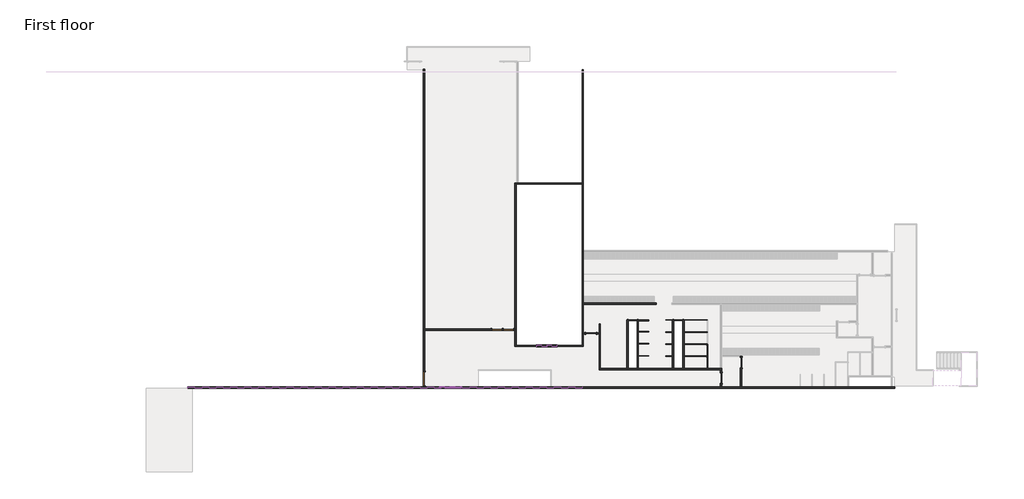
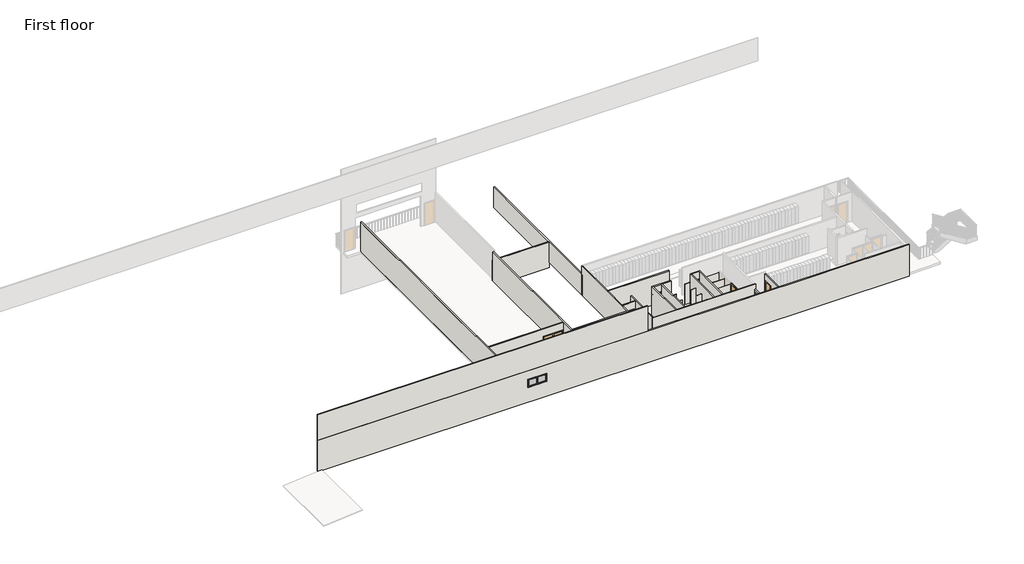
# One storey, part 1 of 5: 33 walls, 14 members, 10 doors, 4 plates.
"""IFC4 building model written with IfcOpenShell, lengths in millimetres."""

from ifc_helpers import new_model, si_unit, frame, origin, place, context, project, spatial, polyline, outline, extrude, faceted_brep, transform, mapped, element, save
from components import m_single_flush_0813_x_2030mm_0e9c7165, m_single_flush_0813_x_2030mm_77d0a044, m_single_flush_1050_x_2134mm_0959f944, m_single_flush_700_x_2030mm_c6211df7, m_single_flush_0813_x_2030mm_4a34e6f7, rectangular_mullion_50_x_150mm_3ddb3363, rectangular_mullion_50_x_150mm_35d6a770, rectangular_mullion_50_x_150mm_5dc04e1f, rectangular_mullion_50_x_150mm_9cd8519f, rectangular_mullion_50_x_150mm_52ae1937, rectangular_mullion_50_x_150mm_08f0ee12, system_panel_glazed_95cdb087, system_panel_glazed_d0354de1

model = new_model("IFC4")

# Units and contexts
model_context = context("Model", 3, world=origin())
ifc_project = project(units=[si_unit("LENGTHUNIT", "METRE", prefix="MILLI")], contexts=[model_context])

# Site, building, storey
site = spatial("IfcSite", under=ifc_project)
building = spatial("IfcBuilding", under=site)
storey = spatial("IfcBuildingStorey", under=building, Name="First floor", Elevation=48170.0)

# Doors
placement = place(None, origin())
m_single_flush_0813_x_2030mm_shape = m_single_flush_0813_x_2030mm_0e9c7165(model_context)
element("IfcDoor", 1, ObjectType="M_Single-Flush : 0813 x 2030mm", at=placement, inside=storey, context=model_context, shape_type="MappedRepresentation", body=[
    mapped(m_single_flush_0813_x_2030mm_shape, transform((-92724.9288687, 13862.7762493, 48170.0), x_axis=(0.0, 1.0, 0.0), y_axis=(-1.0, 0.0, 0.0), z_axis=(0.0, 0.0, 1.0))),
])
m_single_flush_0813_x_2030mm_2_shape = m_single_flush_0813_x_2030mm_77d0a044(model_context)
element("IfcDoor", 2, ObjectType="M_Single-Flush : 0813 x 2030mm", at=placement, inside=storey, context=model_context, shape_type="MappedRepresentation", body=[
    mapped(m_single_flush_0813_x_2030mm_2_shape, transform((-95325.6956785, 13888.2696043, 48170.0), x_axis=(0.0, 1.0, 0.0), y_axis=(-1.0, 0.0, 0.0), z_axis=(0.0, 0.0, 1.0))),
])
element("IfcDoor", 3, ObjectType="M_Single-Flush : 0813 x 2030mm", at=placement, inside=storey, context=model_context, shape_type="MappedRepresentation", body=[
    mapped(m_single_flush_0813_x_2030mm_2_shape, transform((-95325.6956785, 14805.7713059, 48170.0), x_axis=(0.0, 1.0, 0.0), y_axis=(-1.0, 0.0, 0.0), z_axis=(0.0, 0.0, 1.0))),
])
m_single_flush_1050_x_2134mm_shape = m_single_flush_1050_x_2134mm_0959f944(model_context)
element("IfcDoor", 4, ObjectType="M_Single-Flush : 1050 x 2134mm", at=placement, inside=storey, context=model_context, shape_type="MappedRepresentation", body=[
    mapped(m_single_flush_1050_x_2134mm_shape, transform((-117091.9650837, 12633.2777512, 48170.0), x_axis=(0.0, -1.0, 0.0), y_axis=(1.0, 0.0, 0.0), z_axis=(0.0, 0.0, 1.0))),
])
m_single_flush_700_x_2030mm_shape = m_single_flush_700_x_2030mm_c6211df7(model_context)
element("IfcDoor", 5, ObjectType="M_Single-Flush : 700 x 2030mm", at=placement, inside=storey, context=model_context, shape_type="MappedRepresentation", body=[
    mapped(m_single_flush_700_x_2030mm_shape, transform((-101065.3635872, 17119.2679026, 48170.0), x_axis=(1.0, 0.0, 0.0), y_axis=(0.0, 1.0, 0.0), z_axis=(0.0, 0.0, 1.0))),
])
element("IfcDoor", 6, ObjectType="M_Single-Flush : 700 x 2030mm", at=placement, inside=storey, context=model_context, shape_type="MappedRepresentation", body=[
    mapped(m_single_flush_700_x_2030mm_shape, transform((-97567.3900708, 17119.2679026, 48170.0), x_axis=(1.0, 0.0, 0.0), y_axis=(0.0, 1.0, 0.0), z_axis=(0.0, 0.0, 1.0))),
])
m_single_flush_0813_x_2030mm_3_shape = m_single_flush_0813_x_2030mm_4a34e6f7(model_context)
element("IfcDoor", 7, ObjectType="M_Single-Flush : 813 x 2030mm", at=placement, inside=storey, context=model_context, shape_type="MappedRepresentation", body=[
    mapped(m_single_flush_0813_x_2030mm_3_shape, transform((-94264.6956534, 12694.2728269, 48170.0), x_axis=(0.0, -1.0, 0.0), y_axis=(1.0, 0.0, 0.0), z_axis=(0.0, 0.0, 1.0))),
])
element("IfcDoor", 8, ObjectType="M_Single-Flush : 813 x 2030mm", at=placement, inside=storey, context=model_context, shape_type="MappedRepresentation", body=[
    mapped(m_single_flush_0813_x_2030mm_3_shape, transform((-111505.6100916, 16419.2777512, 48170.0), x_axis=(-1.0, 0.0, 0.0), y_axis=(0.0, -1.0, 0.0), z_axis=(0.0, 0.0, 1.0))),
])
element("IfcDoor", 9, ObjectType="M_Single-Flush : 813 x 2030mm", at=placement, inside=storey, context=model_context, shape_type="MappedRepresentation", body=[
    mapped(m_single_flush_0813_x_2030mm_shape, transform((-104277.796161, 16119.3131658, 48170.0), x_axis=(-1.0, 0.0, 0.0), y_axis=(0.0, -1.0, 0.0), z_axis=(0.0, 0.0, 1.0))),
])
element("IfcDoor", 10, ObjectType="M_Single-Flush : 813 x 2030mm", at=placement, inside=storey, context=model_context, shape_type="MappedRepresentation", body=[
    mapped(m_single_flush_0813_x_2030mm_shape, transform((-110605.6100916, 16419.2777512, 48170.0), x_axis=(1.0, 0.0, 0.0), y_axis=(0.0, 1.0, 0.0), z_axis=(0.0, 0.0, 1.0))),
])

# Members
rectangular_mullion_50_x_150mm_shape = rectangular_mullion_50_x_150mm_3ddb3363(model_context)
element("IfcMember", 11, ObjectType="Rectangular Mullion : 50 x 150mm", at=placement, inside=storey, context=model_context, shape_type="MappedRepresentation", body=[
    mapped(rectangular_mullion_50_x_150mm_shape, transform((-107657.9372768, 15157.4703267, 49270.0), x_axis=(1.0, 0.0, 0.0), y_axis=(0.0, -1.0, 0.0), z_axis=(0.0, 0.0, -1.0))),
])
rectangular_mullion_50_x_150mm_2_shape = rectangular_mullion_50_x_150mm_35d6a770(model_context)
element("IfcMember", 12, ObjectType="Rectangular Mullion : 50 x 150mm", at=placement, inside=storey, context=model_context, shape_type="MappedRepresentation", body=[
    mapped(rectangular_mullion_50_x_150mm_2_shape, transform((-106847.9372768, 15157.4703267, 49270.0), x_axis=(1.0, 0.0, 0.0), y_axis=(0.0, -1.0, 0.0), z_axis=(0.0, 0.0, -1.0))),
])
element("IfcMember", 13, ObjectType="Rectangular Mullion : 50 x 150mm", at=placement, inside=storey, context=model_context, shape_type="MappedRepresentation", body=[
    mapped(rectangular_mullion_50_x_150mm_2_shape, transform((-108467.9372768, 15157.4703267, 50170.0), x_axis=(-1.0, 0.0, 0.0), y_axis=(0.0, -1.0, 0.0), z_axis=(0.0, 0.0, 1.0))),
])
rectangular_mullion_50_x_150mm_3_shape = rectangular_mullion_50_x_150mm_5dc04e1f(model_context)
element("IfcMember", 14, ObjectType="Rectangular Mullion : 50 x 150mm", at=placement, inside=storey, context=model_context, shape_type="MappedRepresentation", body=[
    mapped(rectangular_mullion_50_x_150mm_3_shape, transform((-114297.9372768, 11958.2777512, 50170.0), x_axis=(0.0, 0.0, 1.0), y_axis=(0.0, -1.0, 0.0), z_axis=(1.0, 0.0, 0.0))),
])
element("IfcMember", 15, ObjectType="Rectangular Mullion : 50 x 150mm", at=placement, inside=storey, context=model_context, shape_type="MappedRepresentation", body=[
    mapped(rectangular_mullion_50_x_150mm_3_shape, transform((-115122.9372768, 11958.2777512, 50170.0), x_axis=(0.0, 0.0, 1.0), y_axis=(0.0, -1.0, 0.0), z_axis=(1.0, 0.0, 0.0))),
])
element("IfcMember", 16, ObjectType="Rectangular Mullion : 50 x 150mm", at=placement, inside=storey, context=model_context, shape_type="MappedRepresentation", body=[
    mapped(rectangular_mullion_50_x_150mm_3_shape, transform((-115897.9372768, 11958.2777512, 49399.5108726), x_axis=(0.0, 0.0, -1.0), y_axis=(0.0, -1.0, 0.0), z_axis=(-1.0, 0.0, 0.0))),
])
element("IfcMember", 17, ObjectType="Rectangular Mullion : 50 x 150mm", at=placement, inside=storey, context=model_context, shape_type="MappedRepresentation", body=[
    mapped(rectangular_mullion_50_x_150mm_3_shape, transform((-115072.9372768, 11958.2777512, 49399.5108726), x_axis=(0.0, 0.0, -1.0), y_axis=(0.0, -1.0, 0.0), z_axis=(-1.0, 0.0, 0.0))),
])
rectangular_mullion_50_x_150mm_4_shape = rectangular_mullion_50_x_150mm_9cd8519f(model_context)
element("IfcMember", 18, ObjectType="Rectangular Mullion : 50 x 150mm", at=placement, inside=storey, context=model_context, shape_type="MappedRepresentation", body=[
    mapped(rectangular_mullion_50_x_150mm_4_shape, transform((-115097.9372768, 11958.2777512, 49399.5108726), x_axis=(1.0, 0.0, 0.0), y_axis=(0.0, -1.0, 0.0), z_axis=(0.0, 0.0, -1.0))),
])
rectangular_mullion_50_x_150mm_5_shape = rectangular_mullion_50_x_150mm_52ae1937(model_context)
element("IfcMember", 19, ObjectType="Rectangular Mullion : 50 x 150mm", at=placement, inside=storey, context=model_context, shape_type="MappedRepresentation", body=[
    mapped(rectangular_mullion_50_x_150mm_5_shape, transform((-114247.9372768, 11958.2777512, 49399.5108726), x_axis=(1.0, 0.0, 0.0), y_axis=(0.0, -1.0, 0.0), z_axis=(0.0, 0.0, -1.0))),
])
element("IfcMember", 20, ObjectType="Rectangular Mullion : 50 x 150mm", at=placement, inside=storey, context=model_context, shape_type="MappedRepresentation", body=[
    mapped(rectangular_mullion_50_x_150mm_5_shape, transform((-115947.9372768, 11958.2777512, 50170.0), x_axis=(-1.0, 0.0, 0.0), y_axis=(0.0, -1.0, 0.0), z_axis=(0.0, 0.0, 1.0))),
])
rectangular_mullion_50_x_150mm_6_shape = rectangular_mullion_50_x_150mm_08f0ee12(model_context)
element("IfcMember", 21, ObjectType="Rectangular Mullion : 50 x 150mm", at=placement, inside=storey, context=model_context, shape_type="MappedRepresentation", body=[
    mapped(rectangular_mullion_50_x_150mm_6_shape, transform((-106897.9372768, 15157.4703267, 50170.0), x_axis=(0.0, 0.0, 1.0), y_axis=(0.0, -1.0, 0.0), z_axis=(1.0, 0.0, 0.0))),
])
element("IfcMember", 22, ObjectType="Rectangular Mullion : 50 x 150mm", at=placement, inside=storey, context=model_context, shape_type="MappedRepresentation", body=[
    mapped(rectangular_mullion_50_x_150mm_6_shape, transform((-107682.9372768, 15157.4703267, 50170.0), x_axis=(0.0, 0.0, 1.0), y_axis=(0.0, -1.0, 0.0), z_axis=(1.0, 0.0, 0.0))),
])
element("IfcMember", 23, ObjectType="Rectangular Mullion : 50 x 150mm", at=placement, inside=storey, context=model_context, shape_type="MappedRepresentation", body=[
    mapped(rectangular_mullion_50_x_150mm_6_shape, transform((-108417.9372768, 15157.4703267, 49270.0), x_axis=(0.0, 0.0, -1.0), y_axis=(0.0, -1.0, 0.0), z_axis=(-1.0, 0.0, 0.0))),
])
element("IfcMember", 24, ObjectType="Rectangular Mullion : 50 x 150mm", at=placement, inside=storey, context=model_context, shape_type="MappedRepresentation", body=[
    mapped(rectangular_mullion_50_x_150mm_6_shape, transform((-107632.9372768, 15157.4703267, 49270.0), x_axis=(0.0, 0.0, -1.0), y_axis=(0.0, -1.0, 0.0), z_axis=(-1.0, 0.0, 0.0))),
])

# Plates
system_panel_glazed_shape = system_panel_glazed_95cdb087(model_context)
element("IfcPlate", 25, ObjectType="System Panel : Glazed", at=placement, inside=storey, context=model_context, shape_type="MappedRepresentation", body=[
    mapped(system_panel_glazed_shape, transform((-115510.4372768, 11958.2777512, 49449.5108726), x_axis=(1.0, 0.0, 0.0), y_axis=(0.0, 1.0, 0.0), z_axis=(0.0, 0.0, 1.0))),
])
element("IfcPlate", 26, ObjectType="System Panel : Glazed", at=placement, inside=storey, context=model_context, shape_type="MappedRepresentation", body=[
    mapped(system_panel_glazed_shape, transform((-114685.4372768, 11958.2777512, 49449.5108726), x_axis=(1.0, 0.0, 0.0), y_axis=(0.0, 1.0, 0.0), z_axis=(0.0, 0.0, 1.0))),
])
system_panel_glazed_2_shape = system_panel_glazed_d0354de1(model_context)
element("IfcPlate", 27, ObjectType="System Panel : Glazed", at=placement, inside=storey, context=model_context, shape_type="MappedRepresentation", body=[
    mapped(system_panel_glazed_2_shape, transform((-108050.4372768, 15157.4703267, 49320.0), x_axis=(1.0, 0.0, 0.0), y_axis=(0.0, 1.0, 0.0), z_axis=(0.0, 0.0, 1.0))),
])
element("IfcPlate", 28, ObjectType="System Panel : Glazed", at=placement, inside=storey, context=model_context, shape_type="MappedRepresentation", body=[
    mapped(system_panel_glazed_2_shape, transform((-107265.4372768, 15157.4703267, 49320.0), x_axis=(1.0, 0.0, 0.0), y_axis=(0.0, 1.0, 0.0), z_axis=(0.0, 0.0, 1.0))),
])

# Walls
element("IfcWall", 29, ObjectType="Isopanel", at=placement, inside=storey, context=model_context, shape_type="Brep", body=[
    faceted_brep([(-104847.9372768, 15107.4703267, 48170.0), (-104847.9372768, 16069.3131658, 48170.0), (-104847.9372768, 16169.3131658, 48170.0), (-104847.9372768, 18369.2777512, 48170.0), (-104847.9372768, 18469.2777512, 48170.0), (-104847.9372768, 22407.4703267, 48170.0), (-104847.9372768, 22407.4703267, 50970.0), (-104847.9372768, 18469.2777512, 50970.0), (-104847.9372768, 18369.2777512, 50970.0), (-104847.9372768, 16169.3131658, 50970.0), (-104847.9372768, 16069.3131658, 50970.0), (-104847.9372768, 15107.4703267, 50970.0), (-104947.9372768, 15107.4703267, 48170.0), (-104947.9372768, 15107.4703267, 50970.0), (-104947.9372768, 15207.4703267, 50970.0), (-104947.9372768, 22407.4703267, 50970.0), (-104947.9372768, 22407.4703267, 48170.0), (-104947.9372768, 15207.4703267, 48170.0)], [[[0, 1, 2, 3, 4, 5, 6, 7, 8, 9, 10, 11]], [[12, 13, 14, 15, 16, 17]], [[5, 4, 3, 2, 1, 0, 12, 17, 16]], [[11, 10, 9, 8, 7, 6, 15, 14, 13]], [[6, 5, 16, 15]], [[0, 11, 13, 12]]]),
])
element("IfcWall", 30, ObjectType="Isopanel", at=placement, inside=storey, context=model_context, shape_type="Brep", body=[
    faceted_brep([(-80897.9372768, 12008.2777512, 47970.0), (-135247.9372768, 12008.2777512, 47970.0), (-135247.9372768, 12008.2777512, 51027.1066037), (-117141.9650837, 12008.2777512, 51027.1066037), (-117041.9650837, 12008.2777512, 51027.1066037), (-81200.5917799, 12008.2777512, 51027.1066037), (-81100.5917799, 12008.2777512, 51027.1066037), (-80897.9372768, 12008.2777512, 51027.1066037), (-115947.9372768, 12008.2777512, 50170.0), (-115947.9372768, 12008.2777512, 49399.5108726), (-114247.9372768, 12008.2777512, 49399.5108726), (-114247.9372768, 12008.2777512, 50170.0), (-135247.9372768, 11908.2777512, 47970.0), (-80897.9372768, 11908.2777512, 47970.0), (-80897.9372768, 11908.2777512, 51027.1066037), (-135247.9372768, 11908.2777512, 51027.1066037), (-115947.9372768, 11908.2777512, 49399.5108726), (-115947.9372768, 11908.2777512, 50170.0), (-114247.9372768, 11908.2777512, 50170.0), (-114247.9372768, 11908.2777512, 49399.5108726)], [[[0, 1, 2, 3, 4, 5, 6, 7], [8, 9, 10, 11]], [[12, 13, 14, 15], [16, 17, 18, 19]], [[1, 0, 13, 12]], [[7, 6, 5, 4, 3, 2, 15, 14]], [[0, 7, 14, 13]], [[2, 1, 12, 15]], [[16, 9, 8, 17]], [[17, 8, 11, 18]], [[18, 11, 10, 19]], [[9, 16, 19, 10]]]),
])
element("IfcWall", 31, ObjectType="Isopanel", at=placement, inside=storey, context=model_context, shape_type="Brep", body=[
    faceted_brep([(-104847.9372768, 22305.969902, 48170.0), (-104847.9372768, 36405.969902, 48170.0), (-104847.9372768, 36405.969902, 50170.0), (-104847.9372768, 22305.969902, 50170.0), (-104947.9372768, 22305.969902, 48170.0), (-104947.9372768, 22305.969902, 50170.0), (-104947.9372768, 27608.4151802, 50170.0), (-104947.9372768, 27708.4151802, 50170.0), (-104947.9372768, 36405.969902, 50170.0), (-104947.9372768, 36405.969902, 48170.0)], [[[0, 1, 2, 3]], [[4, 5, 6, 7, 8, 9]], [[1, 0, 4, 9]], [[2, 1, 9, 8]], [[3, 2, 8, 7, 6, 5]], [[0, 3, 5, 4]]]),
])
element("IfcWall", 32, ObjectType="Isopanel", at=placement, inside=storey, context=model_context, shape_type="Brep", body=[
    faceted_brep([(-110127.9372768, 27608.4151802, 47670.0), (-104947.9372768, 27608.4151802, 47670.0), (-104947.9372768, 27608.4151802, 50170.0), (-110127.9372768, 27608.4151802, 50170.0), (-110127.9372768, 27608.4151802, 48170.0), (-110127.9372768, 27708.4151802, 47670.0), (-110127.9372768, 27708.4151802, 50170.0), (-104947.9372768, 27708.4151802, 50170.0), (-104947.9372768, 27708.4151802, 47670.0)], [[[0, 1, 2, 3, 4]], [[5, 6, 7, 8]], [[1, 0, 5, 8]], [[3, 2, 7, 6]], [[0, 4, 3, 6, 5]], [[1, 8, 7, 2]]]),
])
element("IfcWall", 33, ObjectType="Isopanel", at=placement, inside=storey, context=model_context, shape_type="Brep", body=[
    faceted_brep([(-110127.9372768, 27608.4151802, 48170.0), (-110127.9372768, 16469.2777512, 48170.0), (-110127.9372768, 16369.2777512, 48170.0), (-110127.9372768, 15107.4703267, 48170.0), (-110127.9372768, 15107.4703267, 51027.1066037), (-110127.9372768, 27608.4151802, 51027.1066037), (-110127.9372768, 27608.4151802, 50170.0), (-110027.9372768, 27608.4151802, 48170.0), (-110027.9372768, 27608.4151802, 51027.1066037), (-110027.9372768, 15107.4703267, 51027.1066037), (-110027.9372768, 15107.4703267, 50970.0), (-110027.9372768, 15107.4703267, 48170.0), (-110027.9372768, 15207.4703267, 48170.0)], [[[0, 1, 2, 3, 4, 5, 6]], [[7, 8, 9, 10, 11, 12]], [[3, 2, 1, 0, 7, 12, 11]], [[5, 4, 9, 8]], [[0, 6, 5, 8, 7]], [[4, 3, 11, 10, 9]]]),
])
element("IfcWall", 34, ObjectType="Isopanel", at=placement, inside=storey, context=model_context, shape_type="SweptSolid", body=[
    extrude(outline(polyline([(48170.0, -110027.9372768), (48170.0, -104947.9372768), (50970.0, -104947.9372768), (50970.0, -110027.9372768), (48170.0, -110027.9372768)]), holes=[polyline([(49270.0, -108467.9372768), (50170.0, -108467.9372768), (50170.0, -106847.9372768), (49270.0, -106847.9372768), (49270.0, -108467.9372768)])]), frame((0.0, 15107.4703267, 0.0), z_axis=(0.0, 1.0, 0.0), x_axis=(0.0, 0.0, 1.0)), (0.0, 0.0, 1.0), 100.0),
])
element("IfcWall", 35, ObjectType="Isopanel", at=placement, inside=storey, context=model_context, shape_type="SweptSolid", body=[
    extrude(outline(polyline([(-135247.9372768, 12008.2777512), (-104947.9372768, 12008.2777512), (-104947.9372768, 11908.2777512), (-135247.9372768, 11908.2777512), (-135247.9372768, 12008.2777512)])), frame((0.0, 0.0, 51027.1066037), z_axis=(0.0, 0.0, 1.0), x_axis=(1.0, 0.0, 0.0)), (0.0, 0.0, 1.0), 2442.8933963),
])
element("IfcWall", 36, ObjectType="22 Partition", at=placement, inside=storey, context=model_context, shape_type="Brep", body=[
    faceted_brep([(-97114.7089598, 17147.2679026, 48170.0), (-95336.6956785, 17147.2679026, 48170.0), (-95314.6956785, 17147.2679026, 48170.0), (-95314.6956785, 17147.2679026, 50170.0), (-95336.6956785, 17147.2679026, 50170.0), (-97114.7089598, 17147.2679026, 50170.0), (-97114.7089598, 17169.2679026, 48170.0), (-97114.7089598, 17169.2679026, 50170.0), (-95314.6956785, 17169.2679026, 50170.0), (-95314.6956785, 17169.2679026, 48170.0)], [[[0, 1, 2, 3, 4, 5]], [[6, 7, 8, 9]], [[2, 1, 0, 6, 9]], [[5, 4, 3, 8, 7]], [[0, 5, 7, 6]], [[3, 2, 9, 8]]]),
])
element("IfcWall", 37, ObjectType="22 Partition", at=placement, inside=storey, context=model_context, shape_type="SweptSolid", body=[
    extrude(outline(polyline([(-95336.6956785, 16217.2756028), (-97114.7089598, 16217.2756028), (-97114.7089598, 16239.2756028), (-95336.6956785, 16239.2756028), (-95336.6956785, 16217.2756028)])), frame((0.0, 0.0, 48170.0), z_axis=(0.0, 0.0, 1.0), x_axis=(1.0, 0.0, 0.0)), (0.0, 0.0, 1.0), 2000.0),
])
element("IfcWall", 38, ObjectType="22 Partition", at=placement, inside=storey, context=model_context, shape_type="SweptSolid", body=[
    extrude(outline(polyline([(-95336.6956785, 15287.2734543), (-97114.7089598, 15287.2734543), (-97114.7089598, 15309.2734543), (-95336.6956785, 15309.2734543), (-95336.6956785, 15287.2734543)])), frame((0.0, 0.0, 48170.0), z_axis=(0.0, 0.0, 1.0), x_axis=(1.0, 0.0, 0.0)), (0.0, 0.0, 1.0), 2000.0),
])
element("IfcWall", 39, ObjectType="22 Partition", at=placement, inside=storey, context=model_context, shape_type="SweptSolid", body=[
    extrude(outline(polyline([(-95336.6956785, 14357.2713059), (-97114.7089598, 14357.2713059), (-97114.7089598, 14379.2713059), (-95336.6956785, 14379.2713059), (-95336.6956785, 14357.2713059)])), frame((0.0, 0.0, 48170.0), z_axis=(0.0, 0.0, 1.0), x_axis=(1.0, 0.0, 0.0)), (0.0, 0.0, 1.0), 2000.0),
])
element("IfcWall", 40, ObjectType="22 Partition", at=placement, inside=storey, context=model_context, shape_type="SweptSolid", body=[
    extrude(outline(polyline([(-99814.7089598, 16247.2768723), (-100614.7089598, 16247.2768723), (-100614.7089598, 16269.2768723), (-99814.7089598, 16269.2768723), (-99814.7089598, 16247.2768723)])), frame((0.0, 0.0, 48170.0), z_axis=(0.0, 0.0, 1.0), x_axis=(1.0, 0.0, 0.0)), (0.0, 0.0, 1.0), 2000.0),
])
element("IfcWall", 41, ObjectType="22 Partition", at=placement, inside=storey, context=model_context, shape_type="SweptSolid", body=[
    extrude(outline(polyline([(-99814.7089598, 15317.2747239), (-100614.7089598, 15317.2747239), (-100614.7089598, 15339.2747239), (-99814.7089598, 15339.2747239), (-99814.7089598, 15317.2747239)])), frame((0.0, 0.0, 48170.0), z_axis=(0.0, 0.0, 1.0), x_axis=(1.0, 0.0, 0.0)), (0.0, 0.0, 1.0), 2000.0),
])
element("IfcWall", 42, ObjectType="22 Partition", at=placement, inside=storey, context=model_context, shape_type="SweptSolid", body=[
    extrude(outline(polyline([(-99814.7089598, 14387.2725754), (-100614.7089598, 14387.2725754), (-100614.7089598, 14409.2725754), (-99814.7089598, 14409.2725754), (-99814.7089598, 14387.2725754)])), frame((0.0, 0.0, 48170.0), z_axis=(0.0, 0.0, 1.0), x_axis=(1.0, 0.0, 0.0)), (0.0, 0.0, 1.0), 2000.0),
])
element("IfcWall", 43, ObjectType="22 Partition", at=placement, inside=storey, context=model_context, shape_type="SweptSolid", body=[
    extrude(outline(polyline([(-98514.6956785, 14379.2712866), (-98014.7089598, 14379.2712866), (-98014.7089598, 14357.2712866), (-98514.6956785, 14357.2712866), (-98514.6956785, 14379.2712866)])), frame((0.0, 0.0, 48170.0), z_axis=(0.0, 0.0, 1.0), x_axis=(1.0, 0.0, 0.0)), (0.0, 0.0, 1.0), 2000.0),
])
element("IfcWall", 44, ObjectType="22 Partition", at=placement, inside=storey, context=model_context, shape_type="SweptSolid", body=[
    extrude(outline(polyline([(-98514.6956785, 15309.273435), (-98014.7089598, 15309.273435), (-98014.7089598, 15287.273435), (-98514.6956785, 15287.273435), (-98514.6956785, 15309.273435)])), frame((0.0, 0.0, 48170.0), z_axis=(0.0, 0.0, 1.0), x_axis=(1.0, 0.0, 0.0)), (0.0, 0.0, 1.0), 2000.0),
])
element("IfcWall", 45, ObjectType="22 Partition", at=placement, inside=storey, context=model_context, shape_type="SweptSolid", body=[
    extrude(outline(polyline([(-98514.6956785, 16239.2755835), (-98014.7089598, 16239.2755835), (-98014.7089598, 16217.2755835), (-98514.6956785, 16217.2755835), (-98514.6956785, 16239.2755835)])), frame((0.0, 0.0, 48170.0), z_axis=(0.0, 0.0, 1.0), x_axis=(1.0, 0.0, 0.0)), (0.0, 0.0, 1.0), 2000.0),
])
element("IfcWall", 46, ObjectType="22 Partition", at=placement, inside=storey, context=model_context, shape_type="SweptSolid", body=[
    extrude(outline(polyline([(-98514.6956785, 17169.2679026), (-98014.7089598, 17169.2679026), (-98014.7089598, 17147.2679026), (-98514.6956785, 17147.2679026), (-98514.6956785, 17169.2679026)])), frame((0.0, 0.0, 48170.0), z_axis=(0.0, 0.0, 1.0), x_axis=(1.0, 0.0, 0.0)), (0.0, 0.0, 1.0), 2000.0),
])
element("IfcWall", 47, ObjectType="wall 90 Partition", at=placement, inside=storey, context=model_context, shape_type="Brep", body=[
    faceted_brep([(-117141.9650837, 35869.2777512, 48170.0), (-117141.9650837, 15119.2777512, 48170.0), (-117141.9650837, 15119.2777512, 50970.0), (-117141.9650837, 35869.2777512, 50970.0), (-117041.9650837, 35869.2777512, 48170.0), (-117041.9650837, 35869.2777512, 50970.0), (-117041.9650837, 16469.2777512, 50970.0), (-117041.9650837, 16369.2777512, 50970.0), (-117041.9650837, 15119.2777512, 50970.0), (-117041.9650837, 15119.2777512, 48170.0), (-117041.9650837, 16369.2777512, 48170.0), (-117041.9650837, 16469.2777512, 48170.0)], [[[0, 1, 2, 3]], [[4, 5, 6, 7, 8, 9, 10, 11]], [[1, 0, 4, 11, 10, 9]], [[2, 1, 9, 8]], [[3, 2, 8, 7, 6, 5]], [[0, 3, 5, 4]]]),
])
element("IfcWall", 48, ObjectType="wall 90 Partition", at=placement, inside=storey, context=model_context, shape_type="SweptSolid", body=[
    extrude(outline(polyline([(14369.2762493, 48170.0), (14269.2762493, 48170.0), (14269.2762493, 50200.0), (13456.2762493, 50200.0), (13456.2762493, 48170.0), (12008.2777512, 48170.0), (12008.2777512, 50827.1066037), (14369.2762493, 50827.1066037), (14369.2762493, 48170.0)])), frame((-92774.9288687, 0.0, 0.0), z_axis=(1.0, 0.0, 0.0), x_axis=(0.0, 1.0, 0.0)), (0.0, 0.0, 1.0), 100.0),
])
element("IfcWall", 49, ObjectType="wall 90 Partition", at=placement, inside=storey, context=model_context, shape_type="Brep", body=[
    faceted_brep([(-94214.6956534, 13419.2679026, 50970.0), (-94214.6956534, 13419.2679026, 48170.0), (-94314.6956534, 13419.2679026, 48170.0), (-95314.6956785, 13419.2679026, 48170.0), (-95336.6956785, 13419.2679026, 48170.0), (-97114.7089598, 13419.2679026, 48170.0), (-97214.7089598, 13419.2679026, 48170.0), (-97914.7089598, 13419.2679026, 48170.0), (-98014.7089598, 13419.2679026, 48170.0), (-100614.7089598, 13419.2679026, 48170.0), (-100714.7089598, 13419.2679026, 48170.0), (-101414.7089598, 13419.2679026, 48170.0), (-101514.7089598, 13419.2679026, 48170.0), (-103547.796161, 13419.2679026, 48170.0), (-103647.796161, 13419.2679026, 48170.0), (-103647.796161, 13419.2679026, 50970.0), (-103547.796161, 13419.2679026, 50970.0), (-101514.7089598, 13419.2679026, 50970.0), (-101414.7089598, 13419.2679026, 50970.0), (-100714.7089598, 13419.2679026, 50970.0), (-100614.7089598, 13419.2679026, 50970.0), (-98014.7089598, 13419.2679026, 50970.0), (-97914.7089598, 13419.2679026, 50970.0), (-97214.7089598, 13419.2679026, 50970.0), (-97114.7089598, 13419.2679026, 50970.0), (-94314.6956534, 13419.2679026, 50970.0), (-94214.6956534, 13319.2679026, 48170.0), (-94214.6956534, 13319.2679026, 50527.1066037), (-94214.6956534, 13319.2679026, 50970.0), (-103647.796161, 13319.2679026, 50970.0), (-103647.796161, 13319.2679026, 48170.0), (-94314.6956534, 13319.2679026, 48170.0)], [[[0, 1, 2, 3, 4, 5, 6, 7, 8, 9, 10, 11, 12, 13, 14, 15, 16, 17, 18, 19, 20, 21, 22, 23, 24, 25]], [[26, 27, 28, 29, 30, 31]], [[14, 13, 12, 11, 10, 9, 8, 7, 6, 5, 4, 3, 2, 1, 26, 31, 30]], [[0, 25, 24, 23, 22, 21, 20, 19, 18, 17, 16, 15, 29, 28]], [[15, 14, 30, 29]], [[0, 28, 27, 26, 1]]]),
])
element("IfcWall", 50, ObjectType="wall 90 Partition", at=placement, inside=storey, context=model_context, shape_type="Brep", body=[
    faceted_brep([(-117041.9650837, 12008.2777512, 48170.0), (-117041.9650837, 12108.2777512, 48170.0), (-117041.9650837, 12108.2777512, 50304.0), (-117041.9650837, 13158.2777512, 50304.0), (-117041.9650837, 13158.2777512, 48170.0), (-117041.9650837, 16369.2777512, 48170.0), (-117041.9650837, 16469.2777512, 48170.0), (-117041.9650837, 36455.969902, 48170.0), (-117041.9650837, 36455.969902, 51027.1066037), (-117041.9650837, 12008.2777512, 51027.1066037), (-117141.9650837, 12108.2777512, 50304.0), (-117141.9650837, 12108.2777512, 48170.0), (-117141.9650837, 12008.2777512, 48170.0), (-117141.9650837, 12008.2777512, 51027.1066037), (-117141.9650837, 36455.969902, 51027.1066037), (-117141.9650837, 36455.969902, 48170.0), (-117141.9650837, 13158.2777512, 48170.0), (-117141.9650837, 13158.2777512, 50304.0)], [[[0, 1, 2, 3, 4, 5, 6, 7, 8, 9]], [[10, 11, 12, 13, 14, 15, 16, 17]], [[16, 15, 7, 6, 5, 4]], [[12, 11, 1, 0]], [[8, 7, 15, 14]], [[9, 8, 14, 13]], [[0, 9, 13, 12]], [[2, 1, 11, 10]], [[3, 2, 10, 17]], [[4, 3, 17, 16]]]),
])
element("IfcWall", 51, ObjectType="wall 90 Partition", at=placement, inside=storey, context=model_context, shape_type="Brep", body=[
    faceted_brep([(-103647.796161, 16869.2679026, 48170.0), (-103647.796161, 16169.3131658, 48170.0), (-103647.796161, 16069.3131658, 48170.0), (-103647.796161, 13419.2679026, 48170.0), (-103647.796161, 13419.2679026, 50970.0), (-103647.796161, 16069.3131658, 50970.0), (-103647.796161, 16169.3131658, 50970.0), (-103647.796161, 16869.2679026, 50970.0), (-103547.796161, 16869.2679026, 48170.0), (-103547.796161, 16869.2679026, 50970.0), (-103547.796161, 13419.2679026, 50970.0), (-103547.796161, 13419.2679026, 48170.0)], [[[0, 1, 2, 3, 4, 5, 6, 7]], [[8, 9, 10, 11]], [[3, 2, 1, 0, 8, 11]], [[7, 6, 5, 4, 10, 9]], [[0, 7, 9, 8]], [[4, 3, 11, 10]]]),
])
element("IfcWall", 52, ObjectType="wall 90 Partition", at=placement, inside=storey, context=model_context, shape_type="SweptSolid", body=[
    extrude(outline(polyline([(50970.0, -103647.796161), (50970.0, -104847.9372768), (48170.0, -104847.9372768), (48170.0, -104684.296161), (50200.0, -104684.296161), (50200.0, -103871.296161), (48170.0, -103871.296161), (48170.0, -103647.796161), (50970.0, -103647.796161)])), frame((0.0, 16069.3131658, 0.0), z_axis=(0.0, 1.0, 0.0), x_axis=(0.0, 0.0, 1.0)), (0.0, 0.0, 1.0), 100.0),
])
element("IfcWall", 53, ObjectType="wall 90 Partition", at=placement, inside=storey, context=model_context, shape_type="SweptSolid", body=[
    extrude(outline(polyline([(12287.7728269, 50200.0), (12287.7728269, 48170.0), (12008.2777512, 48170.0), (12008.2777512, 50527.1066037), (13319.2679026, 50527.1066037), (13319.2679026, 48170.0), (13100.7728269, 48170.0), (13100.7728269, 50200.0), (12287.7728269, 50200.0)])), frame((-94314.6956534, 0.0, 0.0), z_axis=(1.0, 0.0, 0.0), x_axis=(0.0, 1.0, 0.0)), (0.0, 0.0, 1.0), 100.0),
])
element("IfcWall", 54, ObjectType="wall 90 Partition", at=placement, inside=storey, context=model_context, shape_type="SweptSolid", body=[
    extrude(outline(polyline([(-104847.9372768, 18469.2777512), (-99242.9194517, 18469.2777512), (-99242.9194517, 18369.2777512), (-104847.9372768, 18369.2777512), (-104847.9372768, 18469.2777512)])), frame((0.0, 0.0, 48170.0), z_axis=(0.0, 0.0, 1.0), x_axis=(1.0, 0.0, 0.0)), (0.0, 0.0, 1.0), 2800.0),
])
element("IfcWall", 55, ObjectType="wall 90 Partition", at=placement, inside=storey, context=model_context, shape_type="Brep", body=[
    faceted_brep([(-101514.7089598, 17169.2679026, 48170.0), (-101514.7089598, 13419.2679026, 48170.0), (-101514.7089598, 13419.2679026, 50970.0), (-101514.7089598, 17169.2679026, 50970.0), (-101414.7089598, 17169.2679026, 50970.0), (-101414.7089598, 17069.2679026, 50970.0), (-101414.7089598, 13419.2679026, 50970.0), (-101414.7089598, 13419.2679026, 48170.0), (-101414.7089598, 17069.2679026, 48170.0), (-101414.7089598, 17069.2679026, 50200.0), (-101414.7089598, 17169.2679026, 50200.0), (-101415.3635872, 17169.2679026, 48170.0), (-101415.3635872, 17069.2679026, 48170.0), (-101415.3635872, 17169.2679026, 50200.0), (-101415.3635872, 17069.2679026, 50200.0)], [[[0, 1, 2, 3]], [[4, 5, 6, 7, 8, 9, 10]], [[1, 0, 11, 12, 8, 7]], [[3, 2, 6, 5, 4]], [[2, 1, 7, 6]], [[0, 3, 4, 10, 13, 11]], [[12, 14, 9, 8]], [[14, 13, 10, 9]], [[14, 12, 11, 13]]]),
])
element("IfcWall", 56, ObjectType="wall 90 Partition", at=placement, inside=storey, context=model_context, shape_type="Brep", body=[
    faceted_brep([(-100714.7089598, 17069.2679026, 48170.0), (-100714.7089598, 13419.2679026, 48170.0), (-100714.7089598, 13419.2679026, 50970.0), (-100714.7089598, 17069.2679026, 50970.0), (-100614.7089598, 17069.2679026, 48170.0), (-100614.7089598, 17069.2679026, 50970.0), (-100614.7089598, 13419.2679026, 50970.0), (-100614.7089598, 13419.2679026, 48170.0), (-100614.7089598, 14387.2725754, 48170.0), (-100614.7089598, 14409.2725754, 48170.0), (-100614.7089598, 15317.2747239, 48170.0), (-100614.7089598, 15339.2747239, 48170.0), (-100614.7089598, 16247.2768723, 48170.0), (-100614.7089598, 16269.2768723, 48170.0)], [[[0, 1, 2, 3]], [[4, 5, 6, 7, 8, 9, 10, 11, 12, 13]], [[1, 0, 4, 13, 12, 11, 10, 9, 8, 7]], [[3, 2, 6, 5]], [[2, 1, 7, 6]], [[0, 3, 5, 4]]]),
])
element("IfcWall", 57, ObjectType="wall 90 Partition", at=placement, inside=storey, context=model_context, shape_type="Brep", body=[
    faceted_brep([(-98014.7089598, 17169.2679026, 48170.0), (-98014.7089598, 17147.2679026, 48170.0), (-98014.7089598, 16239.2755835, 48170.0), (-98014.7089598, 16217.2755835, 48170.0), (-98014.7089598, 15309.273435, 48170.0), (-98014.7089598, 15287.273435, 48170.0), (-98014.7089598, 14379.2712866, 48170.0), (-98014.7089598, 14357.2712866, 48170.0), (-98014.7089598, 13419.2679026, 48170.0), (-98014.7089598, 13419.2679026, 50970.0), (-98014.7089598, 17169.2679026, 50970.0), (-98014.7089598, 17169.2679026, 50170.0), (-97914.7089598, 17169.2679026, 50970.0), (-97914.7089598, 17069.2679026, 50970.0), (-97914.7089598, 13419.2679026, 50970.0), (-97914.7089598, 13419.2679026, 48170.0), (-97914.7089598, 17069.2679026, 48170.0), (-97914.7089598, 17069.2679026, 50200.0), (-97914.7089598, 17169.2679026, 50200.0), (-97917.3900708, 17169.2679026, 48170.0), (-97917.3900708, 17069.2679026, 48170.0), (-97917.3900708, 17069.2679026, 50200.0), (-97917.3900708, 17169.2679026, 50200.0)], [[[0, 1, 2, 3, 4, 5, 6, 7, 8, 9, 10, 11]], [[12, 13, 14, 15, 16, 17, 18]], [[8, 7, 6, 5, 4, 3, 2, 1, 0, 19, 20, 16, 15]], [[10, 9, 14, 13, 12]], [[9, 8, 15, 14]], [[20, 21, 17, 16]], [[21, 22, 18, 17]], [[21, 20, 19, 22]], [[10, 12, 18, 22, 19, 0, 11]]]),
])
element("IfcWall", 58, ObjectType="wall 90 Partition", at=placement, inside=storey, context=model_context, shape_type="Brep", body=[
    faceted_brep([(-97214.7089598, 17169.2679026, 50970.0), (-97214.7089598, 17169.2679026, 48170.0), (-97214.7089598, 17069.2679026, 48170.0), (-97214.7089598, 13419.2679026, 48170.0), (-97214.7089598, 13419.2679026, 50970.0), (-97214.7089598, 17069.2679026, 50970.0), (-97114.7089598, 17169.2679026, 48170.0), (-97114.7089598, 17169.2679026, 50170.0), (-97114.7089598, 17169.2679026, 50970.0), (-97114.7089598, 13419.2679026, 50970.0), (-97114.7089598, 13419.2679026, 48170.0), (-97114.7089598, 14357.2713059, 48170.0), (-97114.7089598, 14379.2713059, 48170.0), (-97114.7089598, 15287.2734543, 48170.0), (-97114.7089598, 15309.2734543, 48170.0), (-97114.7089598, 16217.2756028, 48170.0), (-97114.7089598, 16239.2756028, 48170.0), (-97114.7089598, 17147.2679026, 48170.0)], [[[0, 1, 2, 3, 4, 5]], [[6, 7, 8, 9, 10, 11, 12, 13, 14, 15, 16, 17]], [[3, 2, 1, 6, 17, 16, 15, 14, 13, 12, 11, 10]], [[0, 5, 4, 9, 8]], [[4, 3, 10, 9]], [[0, 8, 7, 6, 1]]]),
])
element("IfcWall", 59, ObjectType="wall 90 Partition", at=placement, inside=storey, context=model_context, shape_type="SweptSolid", body=[
    extrude(outline(polyline([(50970.0, -97214.7089598), (50970.0, -97914.7089598), (50200.0, -97914.7089598), (50200.0, -97217.3900708), (48170.0, -97217.3900708), (48170.0, -97214.7089598), (50970.0, -97214.7089598)])), frame((0.0, 17069.2679026, 0.0), z_axis=(0.0, 1.0, 0.0), x_axis=(0.0, 0.0, 1.0)), (0.0, 0.0, 1.0), 100.0),
])
element("IfcWall", 60, ObjectType="wall 90 Partition", at=placement, inside=storey, context=model_context, shape_type="Brep", body=[
    faceted_brep([(-101414.7089598, 17169.2679026, 50970.0), (-99814.7089598, 17169.2679026, 50970.0), (-99814.7089598, 17169.2679026, 48170.0), (-100715.3635872, 17169.2679026, 48170.0), (-100715.3635872, 17169.2679026, 50200.0), (-101414.7089598, 17169.2679026, 50200.0), (-99814.7089598, 17069.2679026, 50970.0), (-100614.7089598, 17069.2679026, 50970.0), (-100714.7089598, 17069.2679026, 50970.0), (-101414.7089598, 17069.2679026, 50970.0), (-101414.7089598, 17069.2679026, 50200.0), (-100715.3635872, 17069.2679026, 50200.0), (-100715.3635872, 17069.2679026, 48170.0), (-100714.7089598, 17069.2679026, 48170.0), (-100614.7089598, 17069.2679026, 48170.0), (-99814.7089598, 17069.2679026, 48170.0)], [[[0, 1, 2, 3, 4, 5]], [[6, 7, 8, 9, 10, 11, 12, 13, 14, 15]], [[2, 15, 14, 13, 12, 3]], [[1, 0, 9, 8, 7, 6]], [[2, 1, 6, 15]], [[9, 0, 5, 10]], [[4, 11, 10, 5]], [[11, 4, 3, 12]]]),
])
element("IfcWall", 61, ObjectType="wall 90 Partition", at=placement, inside=storey, context=model_context, shape_type="SweptSolid", body=[
    extrude(outline(polyline([(50970.0, -110127.9372768), (50970.0, -117041.9650837), (48170.0, -117041.9650837), (48170.0, -111912.1100916), (50200.0, -111912.1100916), (50200.0, -111099.1100916), (48170.0, -111099.1100916), (48170.0, -111012.1100916), (50200.0, -111012.1100916), (50200.0, -110199.1100916), (48170.0, -110199.1100916), (48170.0, -110127.9372768), (50970.0, -110127.9372768)])), frame((0.0, 16369.2777512, 0.0), z_axis=(0.0, 1.0, 0.0), x_axis=(0.0, 0.0, 1.0)), (0.0, 0.0, 1.0), 100.0),
])

save(model, "model.ifc")
